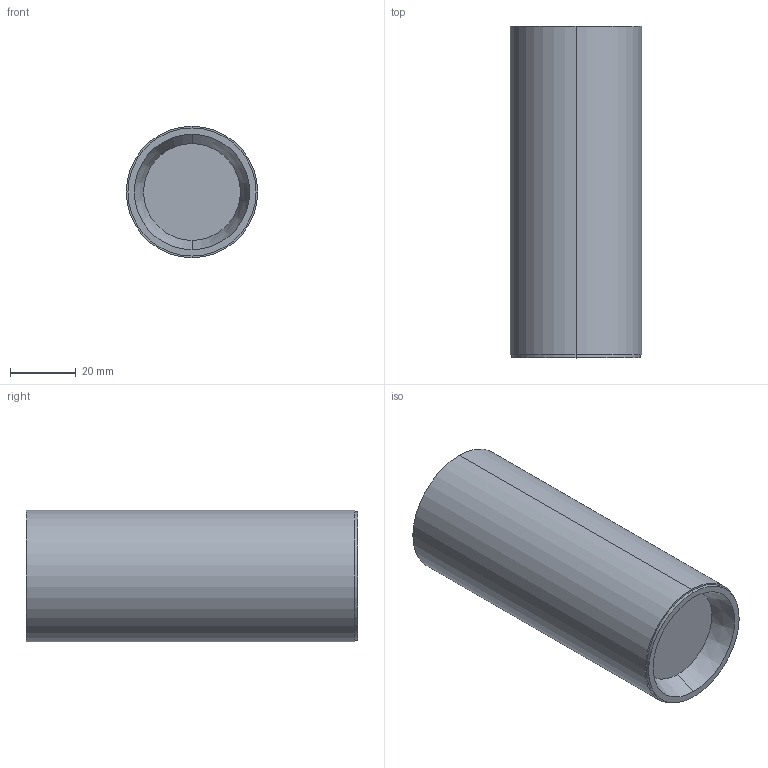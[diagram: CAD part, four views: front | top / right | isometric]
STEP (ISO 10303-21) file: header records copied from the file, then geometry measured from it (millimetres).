
FILE_DESCRIPTION (( 'STEP AP214' ), '1' );
FILE_NAME ('MIN.STEP', '2026-02-06T09:10:07', ( '' ), ( '' ), 'SwSTEP 2.0', 'SolidWorks 2023', '' );
FILE_SCHEMA (( 'AUTOMOTIVE_DESIGN' ));
Length unit declared in the file: millimetre
Products named in the file (1): MIN
Bounding box: 40 x 101 x 40 mm (x, y, z)
Volume: 121110.4 mm3; surface area: 15681.1 mm2
Topology: 1 solids, 1 shells, 10 faces, 18 edges, 12 vertices
Faces by surface type: cylinder 4, plane 4, cone 2
Entity records: 277 total; most frequent: DIRECTION 52, CARTESIAN_POINT 41, ORIENTED_EDGE 36, AXIS2_PLACEMENT_3D 23, EDGE_CURVE 18, CIRCLE 12, EDGE_LOOP 12, VERTEX_POINT 12
